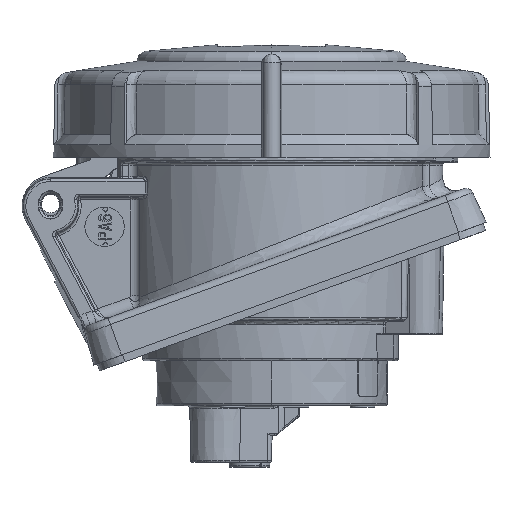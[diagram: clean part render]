
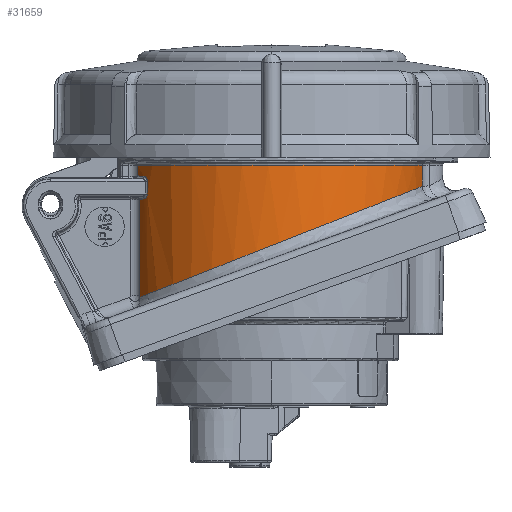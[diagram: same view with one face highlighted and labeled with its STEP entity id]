
A CAD part, left-side view. The second image highlights one B-rep face of the part: STEP entity #31659.
In plain terms, the highlighted cylindrical face has radius 31.4 mm (diameter 62.8 mm), a partial arc.
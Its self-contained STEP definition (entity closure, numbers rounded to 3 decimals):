
#2830=CARTESIAN_POINT('',(0.,0.,-9.5));
#2831=DIRECTION('',(0.,0.,-1.));
#2832=DIRECTION('',(-0.213,-0.977,0.));
#2833=AXIS2_PLACEMENT_3D('',#2830,#2831,#2832);
#2835=CARTESIAN_POINT('',(-16.348,26.808,
-36.36));
#2836=CARTESIAN_POINT('',(-16.319,26.826,
-36.346));
#2837=CARTESIAN_POINT('',(-16.266,26.858,
-36.312));
#2838=CARTESIAN_POINT('',(-16.203,26.896,
-36.253));
#2839=CARTESIAN_POINT('',(-16.157,26.924,
-36.187));
#2840=CARTESIAN_POINT('',(-16.129,26.941,
-36.117));
#2841=CARTESIAN_POINT('',(-16.123,26.945,
-36.073));
#2842=CARTESIAN_POINT('',(-16.123,26.945,
-36.051));
#2844=CARTESIAN_POINT('',(-15.465,27.328,
-11.658));
#2845=CARTESIAN_POINT('',(-15.716,27.185,
-11.672));
#2846=CARTESIAN_POINT('',(-16.215,26.894,
-11.698));
#2847=CARTESIAN_POINT('',(-16.951,26.436,
-11.737));
#2848=CARTESIAN_POINT('',(-17.432,26.118,
-11.763));
#2849=CARTESIAN_POINT('',(-17.671,25.956,
-11.776));
#2865=CARTESIAN_POINT('',(-15.465,27.328,
-11.658));
#3006=DIRECTION('',(0.,0.,-1.));
#3007=VECTOR('',#3006,2.567);
#3008=CARTESIAN_POINT('',(-18.604,25.295,
-12.774));
#3009=LINE('2255',#3008,#3007);
#3027=CARTESIAN_POINT('',(-17.671,25.956,
-11.776));
#3028=CARTESIAN_POINT('',(-17.752,25.9,
-11.78));
#3029=CARTESIAN_POINT('',(-17.907,25.794,
-11.808));
#3030=CARTESIAN_POINT('',(-18.125,25.641,
-11.905));
#3031=CARTESIAN_POINT('',(-18.305,25.513,
-12.045));
#3032=CARTESIAN_POINT('',(-18.442,25.414,
-12.212));
#3033=CARTESIAN_POINT('',(-18.537,25.344,
-12.395));
#3034=CARTESIAN_POINT('',(-18.592,25.304,
-12.587));
#3035=CARTESIAN_POINT('',(-18.604,25.296,
-12.712));
#3036=CARTESIAN_POINT('',(-18.604,25.295,
-12.774));
#3062=CARTESIAN_POINT('',(-18.604,25.295,
-15.342));
#3063=CARTESIAN_POINT('',(-18.604,25.295,
-15.403));
#3064=CARTESIAN_POINT('',(-18.593,25.303,
-15.526));
#3065=CARTESIAN_POINT('',(-18.54,25.342,
-15.714));
#3066=CARTESIAN_POINT('',(-18.449,25.409,
-15.893));
#3067=CARTESIAN_POINT('',(-18.318,25.504,
-16.058));
#3068=CARTESIAN_POINT('',(-18.145,25.627,
-16.198));
#3069=CARTESIAN_POINT('',(-17.935,25.775,
-16.299));
#3070=CARTESIAN_POINT('',(-17.784,25.878,
-16.331));
#3071=CARTESIAN_POINT('',(-17.705,25.932,
-16.338));
#3098=CARTESIAN_POINT('',(-17.705,25.932,
-16.338));
#3099=CARTESIAN_POINT('',(-17.533,26.05,
-16.353));
#3100=CARTESIAN_POINT('',(-17.186,26.282,
-16.384));
#3101=CARTESIAN_POINT('',(-16.658,26.619,
-16.431));
#3102=CARTESIAN_POINT('',(-16.302,26.837,
-16.463));
#3103=CARTESIAN_POINT('',(-16.123,26.945,
-16.479));
#3128=DIRECTION('',(0.,0.,-1.));
#3129=VECTOR('',#3128,19.573);
#3130=CARTESIAN_POINT('',(-16.123,26.945,
-16.479));
#3131=LINE('2275',#3130,#3129);
#3314=CARTESIAN_POINT('',(-6.687,-30.68,
-13.771));
#3315=CARTESIAN_POINT('',(-7.689,-30.461,
-13.856));
#3316=CARTESIAN_POINT('',(-9.677,-29.925,
-14.067));
#3317=CARTESIAN_POINT('',(-12.581,-28.826,
-14.499));
#3318=CARTESIAN_POINT('',(-15.382,-27.434,
-15.046));
#3319=CARTESIAN_POINT('',(-18.053,-25.756,
-15.705));
#3320=CARTESIAN_POINT('',(-20.563,-23.802,
-16.473));
#3321=CARTESIAN_POINT('',(-22.883,-21.582,
-17.345));
#3322=CARTESIAN_POINT('',(-24.983,-19.114,
-18.315));
#3323=CARTESIAN_POINT('',(-26.832,-16.419,
-19.374));
#3324=CARTESIAN_POINT('',(-28.403,-13.522,
-20.513));
#3325=CARTESIAN_POINT('',(-29.671,-10.455,
-21.718));
#3326=CARTESIAN_POINT('',(-30.612,-7.253,
-22.976));
#3327=CARTESIAN_POINT('',(-31.21,-3.957,
-24.271));
#3328=CARTESIAN_POINT('',(-31.454,-0.607,
-25.587));
#3329=CARTESIAN_POINT('',(-31.339,2.75,
-26.907));
#3330=CARTESIAN_POINT('',(-30.868,6.071,
-28.212));
#3331=CARTESIAN_POINT('',(-30.049,9.312,
-29.485));
#3332=CARTESIAN_POINT('',(-28.898,12.431,
-30.711));
#3333=CARTESIAN_POINT('',(-27.434,15.393,
-31.875));
#3334=CARTESIAN_POINT('',(-25.683,18.163,
-32.963));
#3335=CARTESIAN_POINT('',(-23.672,20.714,
-33.966));
#3336=CARTESIAN_POINT('',(-21.43,23.025,
-34.874));
#3337=CARTESIAN_POINT('',(-18.986,25.077,
-35.68));
#3338=CARTESIAN_POINT('',(-17.243,26.263,
-36.146));
#3339=CARTESIAN_POINT('',(-16.348,26.808,
-36.36));
#3391=CARTESIAN_POINT('',(-6.687,-30.68,
-13.771));
#3409=DIRECTION('',(0.,0.,-1.));
#3410=VECTOR('',#3409,4.271);
#3411=CARTESIAN_POINT('',(-6.687,-30.68,-9.5));
#3412=LINE('2391',#3411,#3410);
#21442=DIRECTION('',(0.,0.,-1.));
#21443=VECTOR('',#21442,2.158);
#21444=CARTESIAN_POINT('',(-15.465,27.328,-9.5));
#21445=LINE('2494',#21444,#21443);
#21683=VERTEX_POINT('',#3391);
#21685=VERTEX_POINT('',#3339);
#21689=VERTEX_POINT('',#2842);
#21758=VERTEX_POINT('',#3027);
#21759=VERTEX_POINT('',#3036);
#21762=CARTESIAN_POINT('',(-18.604,25.295,
-15.342));
#21763=VERTEX_POINT('',#21762);
#21765=VERTEX_POINT('',#3071);
#21767=VERTEX_POINT('',#3103);
#21869=CARTESIAN_POINT('',(-6.687,-30.68,-9.5));
#21871=VERTEX_POINT('',#21869);
#21874=CARTESIAN_POINT('',(-15.465,27.328,-9.5));
#21875=VERTEX_POINT('',#21874);
#21962=VERTEX_POINT('',#2865);
#31631=CARTESIAN_POINT('',(0.,0.,0.));
#31632=DIRECTION('',(0.,0.,-1.));
#31633=DIRECTION('',(-1.,0.,0.));
#31634=AXIS2_PLACEMENT_3D('',#31631,#31632,#31633);
#31635=CYLINDRICAL_SURFACE('396',#31634,31.4);
#31637=ORIENTED_EDGE('2492',*,*,#31636,.F.);
#31639=ORIENTED_EDGE('2494',*,*,#31638,.F.);
#31640=ORIENTED_EDGE('2386',*,*,#31613,.F.);
#31642=ORIENTED_EDGE('2391',*,*,#31641,.T.);
#31644=ORIENTED_EDGE('2173',*,*,#31643,.T.);
#31646=ORIENTED_EDGE('2184',*,*,#31645,.T.);
#31648=ORIENTED_EDGE('2275',*,*,#31647,.F.);
#31650=ORIENTED_EDGE('2259',*,*,#31649,.F.);
#31652=ORIENTED_EDGE('2257',*,*,#31651,.F.);
#31654=ORIENTED_EDGE('2255',*,*,#31653,.F.);
#31656=ORIENTED_EDGE('2253',*,*,#31655,.F.);
#31657=EDGE_LOOP('396',(#31637,#31639,#31640,#31642,#31644,#31646,#31648,#31650,
#31652,#31654,#31656));
#31658=FACE_OUTER_BOUND('396',#31657,.F.);
#2834=CIRCLE('2386',#2833,31.4);
#2843=B_SPLINE_CURVE_WITH_KNOTS('2184',3,(#2835,#2836,#2837,#2838,#2839,#2840,
#2841,#2842),.UNSPECIFIED.,.F.,.F.,(4,1,1,1,1,4),(0.,0.2,0.4,0.6,0.8,
1.),.UNSPECIFIED.);
#2850=B_SPLINE_CURVE_WITH_KNOTS('2492',3,(#2844,#2845,#2846,#2847,#2848,#2849),
.UNSPECIFIED.,.F.,.F.,(4,1,1,4),(0.,0.333,0.667,1.),
.UNSPECIFIED.);
#3037=B_SPLINE_CURVE_WITH_KNOTS('2253',3,(#3027,#3028,#3029,#3030,#3031,#3032,
#3033,#3034,#3035,#3036),.UNSPECIFIED.,.F.,.F.,(4,1,1,1,1,1,1,4),(0.,
0.143,0.286,0.429,0.571,
0.714,0.857,1.),.UNSPECIFIED.);
#3072=B_SPLINE_CURVE_WITH_KNOTS('2257',3,(#3062,#3063,#3064,#3065,#3066,#3067,
#3068,#3069,#3070,#3071),.UNSPECIFIED.,.F.,.F.,(4,1,1,1,1,1,1,4),(0.,
0.143,0.286,0.429,0.571,
0.714,0.857,1.),.UNSPECIFIED.);
#3104=B_SPLINE_CURVE_WITH_KNOTS('2259',3,(#3098,#3099,#3100,#3101,#3102,#3103),
.UNSPECIFIED.,.F.,.F.,(4,1,1,4),(0.,0.333,0.667,1.),
.UNSPECIFIED.);
#3340=B_SPLINE_CURVE_WITH_KNOTS('2173',3,(#3314,#3315,#3316,#3317,#3318,#3319,
#3320,#3321,#3322,#3323,#3324,#3325,#3326,#3327,#3328,#3329,#3330,#3331,#3332,
#3333,#3334,#3335,#3336,#3337,#3338,#3339),.UNSPECIFIED.,.F.,.F.,(4,1,1,1,1,1,1,
1,1,1,1,1,1,1,1,1,1,1,1,1,1,1,1,4),(0.,0.043,0.087,
0.13,0.174,0.217,0.261,
0.304,0.348,0.391,0.435,
0.478,0.522,0.565,0.609,
0.652,0.696,0.739,0.783,
0.826,0.87,0.913,0.957,1.),
.UNSPECIFIED.);
#31613=EDGE_CURVE('2386',#21871,#21875,#2834,.T.);
#31636=EDGE_CURVE('2492',#21962,#21758,#2850,.T.);
#31638=EDGE_CURVE('2494',#21875,#21962,#21445,.T.);
#31641=EDGE_CURVE('2391',#21871,#21683,#3412,.T.);
#31643=EDGE_CURVE('2173',#21683,#21685,#3340,.T.);
#31645=EDGE_CURVE('2184',#21685,#21689,#2843,.T.);
#31647=EDGE_CURVE('2275',#21767,#21689,#3131,.T.);
#31649=EDGE_CURVE('2259',#21765,#21767,#3104,.T.);
#31651=EDGE_CURVE('2257',#21763,#21765,#3072,.T.);
#31653=EDGE_CURVE('2255',#21759,#21763,#3009,.T.);
#31655=EDGE_CURVE('2253',#21758,#21759,#3037,.T.);
#31659=ADVANCED_FACE('396',(#31658),#31635,.T.);
